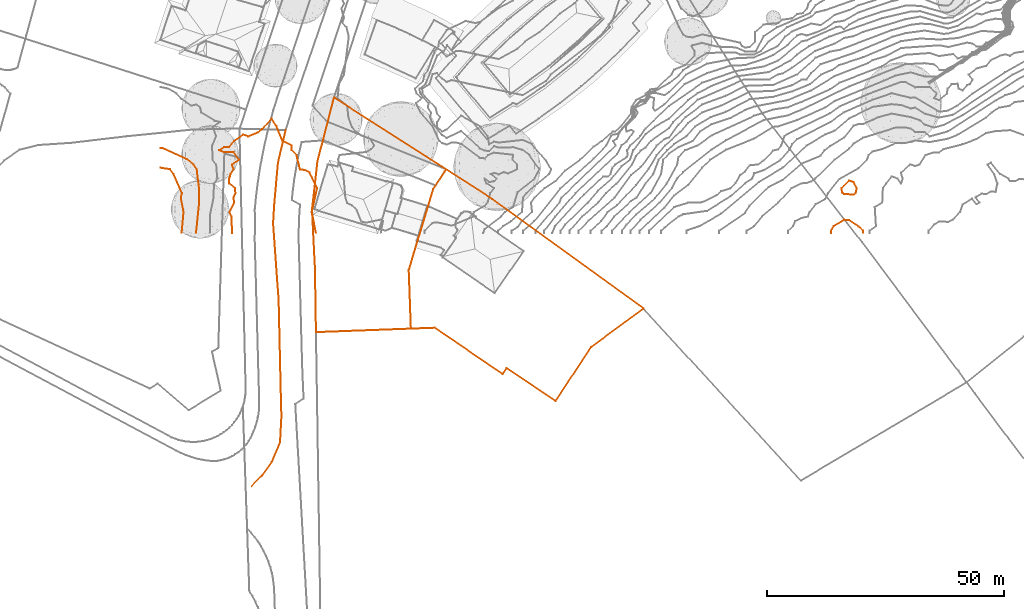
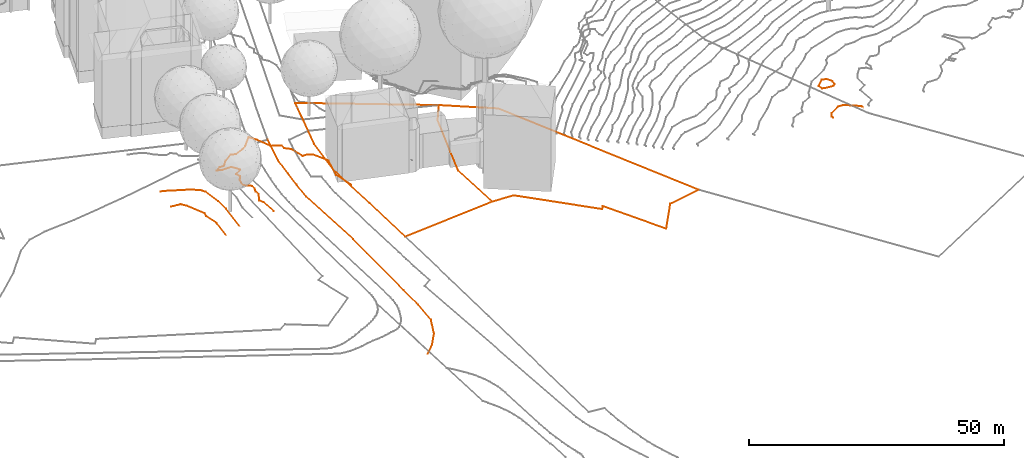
# Not in any storey, part 98 of 477: 7 geographic elements, 1 civil element.
"""IFC4 model written with IfcOpenShell, lengths in metres."""

from ifc_helpers import new_model, entity, si_unit, frame, origin_with_axes, place, context, subcontext, project, spatial, element, save


model = new_model("IFC4")

# Units and contexts
model_context = context("Model", 3, precision=1e-05, world=origin_with_axes())
body_context = subcontext(model_context, "Body", "Model", "MODEL_VIEW")
ifc_project = project(units=[si_unit("AREAUNIT", "SQUARE_METRE"), si_unit("LENGTHUNIT", "METRE")], contexts=[model_context])

# Sites
site_1_placement = place(None, origin_with_axes())
site_1 = spatial("IfcSite", under=ifc_project, at=site_1_placement, Name="Topoexport Site")
site_2_placement = place(site_1_placement, origin_with_axes())
site_2 = spatial("IfcSite", under=site_1, at=site_2_placement, Name="TPX_ROADS")

# Civil element
civil_element_placement = place(site_2_placement, frame((18.3007320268, -54.8682551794, 524.812), z_axis=(0.0, 0.0, 1.0), x_axis=(1.0, 0.0, 0.0)))
element("IfcCivilElement", 1, at=civil_element_placement, inside=site_2, Name="Road 151", ObjectType="ROAD", context=body_context, shape_type="GeometricCurveSet", body=[
    entity("IfcGeometricCurveSet", [entity("IfcIndexedPolyCurve", entity("IfcCartesianPointList3D", [[0.0, 0.0, 0.0], [2.3500000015, 2.3489999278, 0.129], [4.4050000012, 5.1389998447, 0.312], [6.1669999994, 9.3979997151, 0.46], [6.4609999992, 14.8319995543, 0.59], [6.313000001, 20.2639993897, 0.86], [5.8729999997, 39.3539988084, 1.649], [4.6979999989, 55.6539983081, 2.292], [4.9550000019, 59.9149981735, 2.521], [5.307, 63.79799806, 2.66], [5.7259999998, 68.4289979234, 2.826], [7.3420000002, 75.3319977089, 3.069]]))]),
])

# Site
site_3_placement = place(site_1_placement, origin_with_axes())
site_3 = spatial("IfcSite", under=site_1, at=site_3_placement, Name="TPX_CADASTRES")

# Geographic elements
geographic_element_1_placement = place(site_3_placement, frame((31.2187320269, 3.6207160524, 528.427509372), z_axis=(0.0, 0.0, 1.0), x_axis=(1.0, 0.0, 0.0)))
element("IfcGeographicElement", 2, at=geographic_element_1_placement, inside=site_3, Name="Cadastre 91", PredefinedType="NOTDEFINED", context=body_context, shape_type="GeometricCurveSet", body=[
    entity("IfcGeometricCurveSet", [entity("IfcIndexedPolyCurve", entity("IfcCartesianPointList3D", [[0.0, 0.0, 0.0], [1.1499999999, 10.2410000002, 0.0194641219], [4.6209999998, 23.689, 0.4923029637], [28.2989999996, 8.5250000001, 0.8708104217], [28.0289999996, 8.1040000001, 0.8476762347], [25.5989999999, 4.314, 0.7479513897], [24.52, 0.754, 0.8054086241], [21.4779999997, -9.2819999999, 0.7622332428], [20.4380000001, -12.709, 0.839346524], [20.8969999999, -25.1309999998, 0.8077734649], [0.838, -25.8739999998, -0.0870900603], [0.6289999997, -12.372, -0.2295784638], [0.0, 0.0, 0.0]]))]),
])
geographic_element_2_placement = place(site_3_placement, frame((51.656732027, -9.0882839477, 529.266855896), z_axis=(0.0, 0.0, 1.0), x_axis=(1.0, 0.0, 0.0)))
element("IfcGeographicElement", 3, at=geographic_element_2_placement, inside=site_3, Name="Cadastre 92", PredefinedType="NOTDEFINED", context=body_context, shape_type="GeometricCurveSet", body=[
    entity("IfcGeometricCurveSet", [entity("IfcIndexedPolyCurve", entity("IfcCartesianPointList3D", [[0.0, 0.0, 0.0], [1.0399999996, 3.4270000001, -0.0771132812], [4.0819999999, 13.463, -0.0339378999], [5.1609999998, 17.023, -0.0913951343], [7.5909999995, 20.8130000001, 0.0083297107], [7.8609999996, 21.2340000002, 0.0314638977], [17.659, 14.9550000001, -0.3921652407], [49.6029999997, -8.162, -16.9854249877], [38.5039999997, -16.325, -11.5097008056], [31.0039999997, -27.7279999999, -7.9264710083], [20.6659999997, -20.7899999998, -3.0986784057], [19.8259999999, -22.0399999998, -2.7712196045], [5.4589999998, -12.2409999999, -0.4036690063], [0.4589999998, -12.4219999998, -0.0315730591], [0.0, 0.0, 0.0]]))]),
])

# Site
site_4_placement = place(site_1_placement, origin_with_axes())
site_4 = spatial("IfcSite", under=site_1, at=site_4_placement, Name="TPX_CONTOUR_LINES")

# Geographic elements
geographic_element_3_placement = place(site_4_placement, frame((143.0873121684, 8.1707160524, 507.0), z_axis=(0.0, 0.0, 1.0), x_axis=(1.0, 0.0, 0.0)))
element("IfcGeographicElement", 4, at=geographic_element_3_placement, inside=site_4, Name="Contour Line 507.0 m", PredefinedType="NOTDEFINED", context=body_context, shape_type="GeometricCurveSet", body=[
    entity("IfcGeometricCurveSet", [entity("IfcIndexedPolyCurve", entity("IfcCartesianPointList3D", [[3.0230131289, -1.0, 0.0], [2.5904198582, -1.3927680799, 0.0], [0.5904198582, -1.2109396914, 0.0], [0.1978330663, -1.0, 0.0], [0.0, 0.0, 0.0], [1.5904198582, 1.5762322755, 0.0], [2.5904198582, 1.3133927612, 0.0], [3.2149956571, 0.0, 0.0], [3.0230131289, -1.0, 0.0]]))]),
])
geographic_element_4_placement = place(site_4_placement, frame((140.8497842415, -1.3292839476, 506.0), z_axis=(0.0, 0.0, 1.0), x_axis=(1.0, 0.0, 0.0)))
element("IfcGeographicElement", 5, at=geographic_element_4_placement, inside=site_4, Name="Contour Line 506.0 m", PredefinedType="NOTDEFINED", context=body_context, shape_type="GeometricCurveSet", body=[
    entity("IfcGeometricCurveSet", [entity("IfcIndexedPolyCurve", entity("IfcCartesianPointList3D", [[6.8522147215, 0.0, 0.0], [6.8522147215, 0.5, 0.0], [5.8279477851, 1.4052797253, 0.0], [3.8279477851, 2.7352194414, 0.0], [2.8279477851, 2.8258855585, 0.0], [0.5979604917, 1.5, 0.0], [0.0, 0.5, 0.0], [0.0, 0.0, 0.0]]))]),
])
geographic_element_5_placement = place(site_4_placement, frame((-0.8222679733, 12.4719852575, 526.0), z_axis=(0.0, 0.0, 1.0), x_axis=(1.0, 0.0, 0.0)))
element("IfcGeographicElement", 6, at=geographic_element_5_placement, inside=site_4, Name="Contour Line 526.0 m", PredefinedType="NOTDEFINED", context=body_context, shape_type="GeometricCurveSet", body=[
    entity("IfcGeometricCurveSet", [entity("IfcIndexedPolyCurve", entity("IfcCartesianPointList3D", [[4.4733234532, -13.8012692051, 0.0], [4.9048223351, -9.3012692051, 0.0], [4.3181818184, -6.3012692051, 0.0], [4.5437956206, -5.3012692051, 0.0], [2.7884758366, -1.3012692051, 0.0], [1.997442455, -0.3012692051, 0.0], [0.0, 0.0, 0.0]]))]),
])
geographic_element_6_placement = place(site_4_placement, frame((-0.8222679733, 16.6238503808, 527.0), z_axis=(0.0, 0.0, 1.0), x_axis=(1.0, 0.0, 0.0)))
element("IfcGeographicElement", 7, at=geographic_element_6_placement, inside=site_4, Name="Contour Line 527.0 m", PredefinedType="NOTDEFINED", context=body_context, shape_type="GeometricCurveSet", body=[
    entity("IfcGeometricCurveSet", [entity("IfcIndexedPolyCurve", entity("IfcCartesianPointList3D", [[7.5281917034, -17.9531343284, 0.0], [8.188956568, -11.4531343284, 0.0], [8.1604967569, -8.4531343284, 0.0], [7.6752066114, -4.4531343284, 0.0], [7.0486513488, -3.4531343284, 0.0], [5.5, -2.309138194, 0.0], [0.5, 0.0, 0.0], [0.0, 0.0, 0.0]]))]),
])
geographic_element_7_placement = place(site_4_placement, frame((11.6248310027, 16.1707160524, 528.0), z_axis=(0.0, 0.0, 1.0), x_axis=(1.0, 0.0, 0.0)))
element("IfcGeographicElement", 8, at=geographic_element_7_placement, inside=site_4, Name="Contour Line 528.0 m", PredefinedType="NOTDEFINED", context=body_context, shape_type="GeometricCurveSet", body=[
    entity("IfcGeometricCurveSet", [entity("IfcIndexedPolyCurve", entity("IfcCartesianPointList3D", [[20.4325787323, -17.5, 0.0], [19.5379944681, -13.0, 0.0], [20.6613569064, -8.0, 0.0], [19.052901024, -4.6603174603, 0.0], [18.052901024, -4.1434782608, 0.0], [17.052901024, -4.0781456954, 0.0], [16.3117245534, -1.0, 0.0], [15.2613952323, 0.0, 0.0], [15.2346393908, 1.0, 0.0], [13.3659158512, 2.0, 0.0], [12.052901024, 5.135857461, 0.0], [11.052901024, 6.7123519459, 0.0], [9.052901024, 4.468108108, 0.0], [8.052901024, 3.7435197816, 0.0], [6.052901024, 2.9543859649, 0.0], [5.052901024, 3.3223599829, 0.0], [3.1524860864, 2.0, 0.0], [2.052901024, 0.6591304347, 0.0], [1.052901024, 0.6591422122, 0.0], [0.0, 0.0, 0.0], [1.052901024, -0.4010989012, 0.0], [3.052901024, -0.3766011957, 0.0], [4.1654896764, -2.0, 0.0], [2.6633262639, -3.0, 0.0], [3.0075401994, -4.0, 0.0], [2.3470186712, -5.0, 0.0], [2.1123604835, -6.0, 0.0], [2.0546177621, -7.0, 0.0], [3.358542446, -8.0, 0.0], [3.3969451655, -9.0, 0.0], [3.0196702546, -10.0, 0.0], [3.1239831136, -11.0, 0.0], [2.1331654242, -13.0, 0.0], [2.5464732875, -14.0, 0.0], [2.7267295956, -17.5, 0.0]]))]),
])

save(model, "model.ifc")
